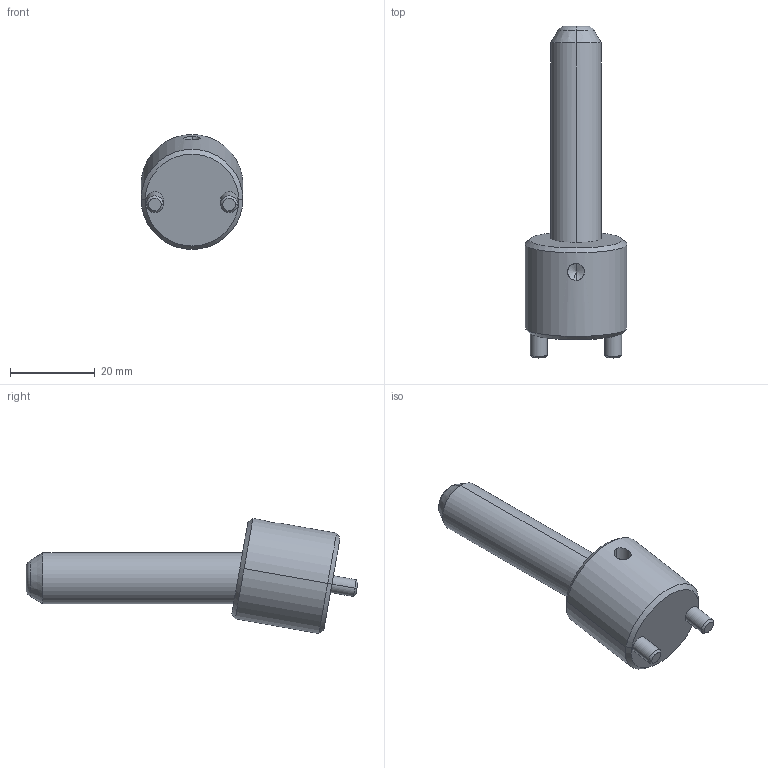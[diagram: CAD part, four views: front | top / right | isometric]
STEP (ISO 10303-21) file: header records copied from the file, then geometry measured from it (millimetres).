
FILE_DESCRIPTION(('CATIA V5 STEP Exchange'),'2;1');
FILE_NAME('C:\Users\Raffaele\Desktop\3D BOLEX\3D FILES CF BOLEX\19-INCLINED ASSEMBLY REF_CI\CI1012050.stp','2019-06-20T14:10:50+00:00',('none'),('none'),'CATIA Version 5 Release 20 GA (IN-10)','CATIA V5 STEP AP203','none');
FILE_SCHEMA(('CONFIG_CONTROL_DESIGN'));
Length unit declared in the file: millimetre
Products named in the file (1): CI1012050
Assembly tree (2 placements, depth 2):
  CI1012050
    #58
    #560
Bounding box: 24 x 78.27 x 27.11 mm (x, y, z)
Volume: 15363.2 mm3; surface area: 6087.9 mm2
Topology: 2 solids, 2 shells, 39 faces, 82 edges, 47 vertices
Faces by surface type: cone 14, cylinder 14, plane 7, torus 4
Entity records: 1449 total; most frequent: CARTESIAN_POINT 590, ORIENTED_EDGE 160, DIRECTION 145, EDGE_CURVE 80, AXIS2_PLACEMENT_3D 72, VERTEX_POINT 47, EDGE_LOOP 43, ADVANCED_FACE 39
